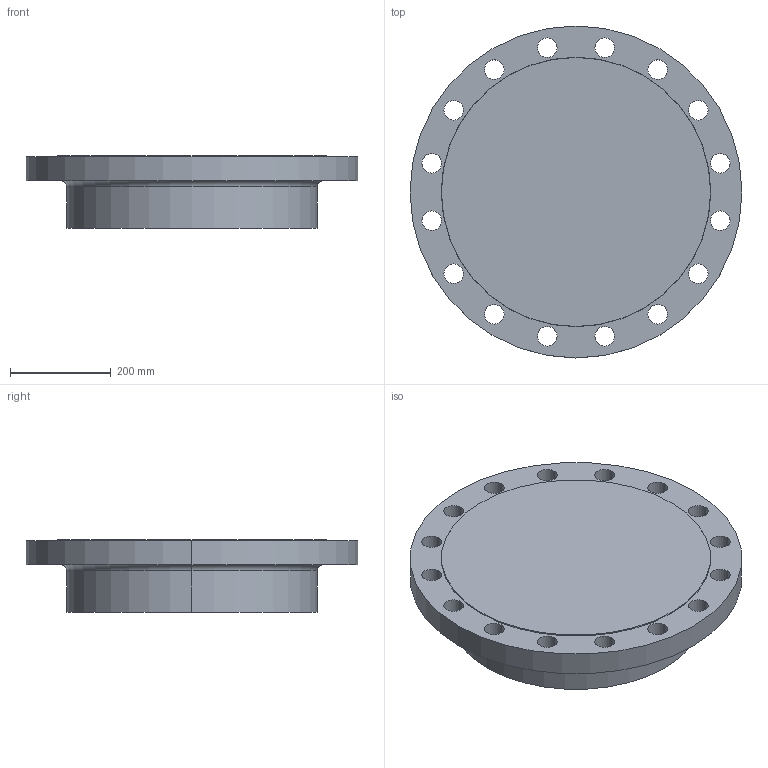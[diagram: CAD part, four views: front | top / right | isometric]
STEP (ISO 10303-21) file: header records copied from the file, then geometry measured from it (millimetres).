
FILE_DESCRIPTION (( 'STEP AP214' ), '1' );
FILE_NAME ('PN40 DN400 Type 21(i) - Type B Face.STEP', '2019-01-05T23:14:03', ( '' ), ( '' ), 'SwSTEP 2.0', 'SolidWorks 2019', '' );
FILE_SCHEMA (( 'AUTOMOTIVE_DESIGN' ));
Length unit declared in the file: millimetre
Products named in the file (1): PN40 DN400 Type 21(i) - Type B Face
Bounding box: 660 x 660 x 145 mm (x, y, z)
Volume: 34507629 mm3; surface area: 983092 mm2
Topology: 1 solids, 1 shells, 44 faces, 118 edges, 78 vertices
Faces by surface type: cylinder 36, plane 4, torus 2, cone 2
Entity records: 1524 total; most frequent: DIRECTION 288, CARTESIAN_POINT 241, ORIENTED_EDGE 236, AXIS2_PLACEMENT_3D 125, EDGE_CURVE 118, CIRCLE 80, EDGE_LOOP 78, VERTEX_POINT 78
